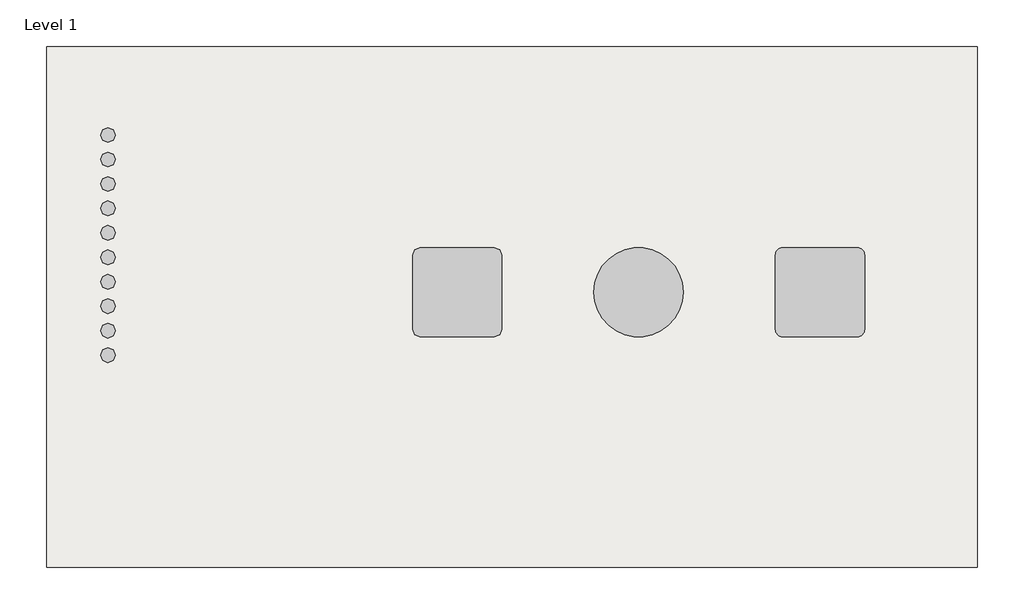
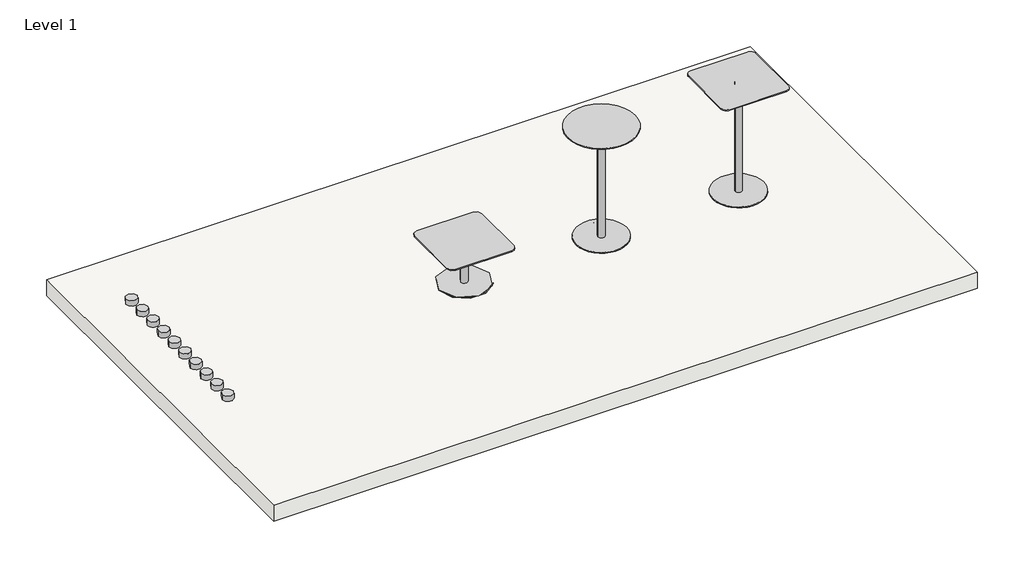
# One storey: 10 proxies, 3 furniture elements, 1 slab.
"""IFC4 building model written with IfcOpenShell, lengths in millimetres."""

from ifc_helpers import new_model, si_unit, frame, origin, place, context, project, spatial, polyline, outline, extrude, transform, mapped, element, save
from components import materialmodel_materialmodel_02e69005, furniture_952c6e6f, furniture_1ec12105, furniture_c630520a

model = new_model("IFC4")

# Units and contexts
model_context = context("Model", 3, world=origin())
ifc_project = project(units=[si_unit("LENGTHUNIT", "METRE", prefix="MILLI")], contexts=[model_context])

# Site, building, storey
site = spatial("IfcSite", under=ifc_project)
building = spatial("IfcBuilding", under=site)
storey = spatial("IfcBuildingStorey", under=building, Name="Level 1", Elevation=0.0)

# Proxies
placement = place(None, origin())
materialmodel_materialmodel_shape = materialmodel_materialmodel_02e69005(model_context)
element("IfcBuildingElementProxy", 1, Name="MaterialModel : MaterialModel", ObjectType="MaterialModel : MaterialModel", at=placement, inside=storey, context=model_context, shape_type="MappedRepresentation", body=[
    mapped(materialmodel_materialmodel_shape, transform((-5691.7665113, 2370.9711238, 0.0), x_axis=(1.0, 0.0, 0.0), y_axis=(0.0, 1.0, 0.0), z_axis=(0.0, 0.0, 1.0))),
])
element("IfcBuildingElementProxy", 2, Name="MaterialModel : MaterialModel", ObjectType="MaterialModel : MaterialModel", at=placement, inside=storey, context=model_context, shape_type="MappedRepresentation", body=[
    mapped(materialmodel_materialmodel_shape, transform((-5691.7665113, 3850.9711238, 0.0), x_axis=(1.0, 0.0, 0.0), y_axis=(0.0, 1.0, 0.0), z_axis=(0.0, 0.0, 1.0))),
])
element("IfcBuildingElementProxy", 3, Name="MaterialModel : MaterialModel", ObjectType="MaterialModel : MaterialModel", at=placement, inside=storey, context=model_context, shape_type="MappedRepresentation", body=[
    mapped(materialmodel_materialmodel_shape, transform((-5691.7665113, 3193.193346, 0.0), x_axis=(1.0, 0.0, 0.0), y_axis=(0.0, 1.0, 0.0), z_axis=(0.0, 0.0, 1.0))),
])
element("IfcBuildingElementProxy", 4, Name="MaterialModel : MaterialModel", ObjectType="MaterialModel : MaterialModel", at=placement, inside=storey, context=model_context, shape_type="MappedRepresentation", body=[
    mapped(materialmodel_materialmodel_shape, transform((-5691.7665113, 3686.5266793, 0.0), x_axis=(1.0, 0.0, 0.0), y_axis=(0.0, 1.0, 0.0), z_axis=(0.0, 0.0, 1.0))),
])
element("IfcBuildingElementProxy", 5, Name="MaterialModel : MaterialModel", ObjectType="MaterialModel : MaterialModel", at=placement, inside=storey, context=model_context, shape_type="MappedRepresentation", body=[
    mapped(materialmodel_materialmodel_shape, transform((-5691.7665113, 3522.0822349, 0.0), x_axis=(1.0, 0.0, 0.0), y_axis=(0.0, 1.0, 0.0), z_axis=(0.0, 0.0, 1.0))),
])
element("IfcBuildingElementProxy", 6, Name="MaterialModel : MaterialModel", ObjectType="MaterialModel : MaterialModel", at=placement, inside=storey, context=model_context, shape_type="MappedRepresentation", body=[
    mapped(materialmodel_materialmodel_shape, transform((-5691.7665113, 3357.6377905, 0.0), x_axis=(1.0, 0.0, 0.0), y_axis=(0.0, 1.0, 0.0), z_axis=(0.0, 0.0, 1.0))),
])
element("IfcBuildingElementProxy", 7, Name="MaterialModel : MaterialModel", ObjectType="MaterialModel : MaterialModel", at=placement, inside=storey, context=model_context, shape_type="MappedRepresentation", body=[
    mapped(materialmodel_materialmodel_shape, transform((-5691.7665113, 2864.3044571, 0.0), x_axis=(1.0, 0.0, 0.0), y_axis=(0.0, 1.0, 0.0), z_axis=(0.0, 0.0, 1.0))),
])
element("IfcBuildingElementProxy", 8, Name="MaterialModel : MaterialModel", ObjectType="MaterialModel : MaterialModel", at=placement, inside=storey, context=model_context, shape_type="MappedRepresentation", body=[
    mapped(materialmodel_materialmodel_shape, transform((-5691.7665113, 2699.8600127, 0.0), x_axis=(1.0, 0.0, 0.0), y_axis=(0.0, 1.0, 0.0), z_axis=(0.0, 0.0, 1.0))),
])
element("IfcBuildingElementProxy", 9, Name="MaterialModel : MaterialModel", ObjectType="MaterialModel : MaterialModel", at=placement, inside=storey, context=model_context, shape_type="MappedRepresentation", body=[
    mapped(materialmodel_materialmodel_shape, transform((-5691.7665113, 2535.4155682, 0.0), x_axis=(1.0, 0.0, 0.0), y_axis=(0.0, 1.0, 0.0), z_axis=(0.0, 0.0, 1.0))),
])
element("IfcBuildingElementProxy", 10, Name="MaterialModel : MaterialModel", ObjectType="MaterialModel : MaterialModel", at=placement, inside=storey, context=model_context, shape_type="MappedRepresentation", body=[
    mapped(materialmodel_materialmodel_shape, transform((-5691.7665113, 3028.7489016, 0.0), x_axis=(1.0, 0.0, 0.0), y_axis=(0.0, 1.0, 0.0), z_axis=(0.0, 0.0, 1.0))),
])

# Furniture
furniture_shape = furniture_952c6e6f(model_context)
element("IfcFurniture", 11, ObjectType="Vestre - Munch Table - 5131 : Vestre - Munch Table - 5131", at=placement, inside=storey, context=model_context, shape_type="MappedRepresentation", body=[
    mapped(furniture_shape, transform((-3343.8185413, 2794.2219482, 0.0), x_axis=(1.0, 0.0, 0.0), y_axis=(0.0, 1.0, 0.0), z_axis=(0.0, 0.0, 1.0))),
])
furniture_2_shape = furniture_1ec12105(model_context)
element("IfcFurniture", 12, ObjectType="Vestre - Munch Table - 5137 : Vestre - Munch Table - 5137", at=placement, inside=storey, context=model_context, shape_type="MappedRepresentation", body=[
    mapped(furniture_2_shape, transform((-2123.8185413, 2794.2219482, 0.0), x_axis=(1.0, 0.0, 0.0), y_axis=(0.0, 1.0, 0.0), z_axis=(0.0, 0.0, 1.0))),
])
furniture_3_shape = furniture_c630520a(model_context)
element("IfcFurniture", 13, ObjectType="Vestre - Munch Table - 5138 : Vestre - Munch Table - 5138", at=placement, inside=storey, context=model_context, shape_type="MappedRepresentation", body=[
    mapped(furniture_3_shape, transform((-903.8185413, 2794.2219482, 0.0), x_axis=(1.0, 0.0, 0.0), y_axis=(0.0, 1.0, 0.0), z_axis=(0.0, 0.0, 1.0))),
])

# Slab
element("IfcSlab", 14, ObjectType="Generic 150mm", at=placement, inside=storey, context=model_context, shape_type="SweptSolid", body=[
    extrude(outline(polyline([(155.204963, 4446.0981081), (155.204963, 946.0981081), (-6104.795037, 946.0981081), (-6104.795037, 4446.0981081), (155.204963, 4446.0981081)])), frame((0.0, 0.0, -150.0), z_axis=(0.0, 0.0, 1.0), x_axis=(1.0, 0.0, 0.0)), (0.0, 0.0, 1.0), 150.0),
])

save(model, "model.ifc")
